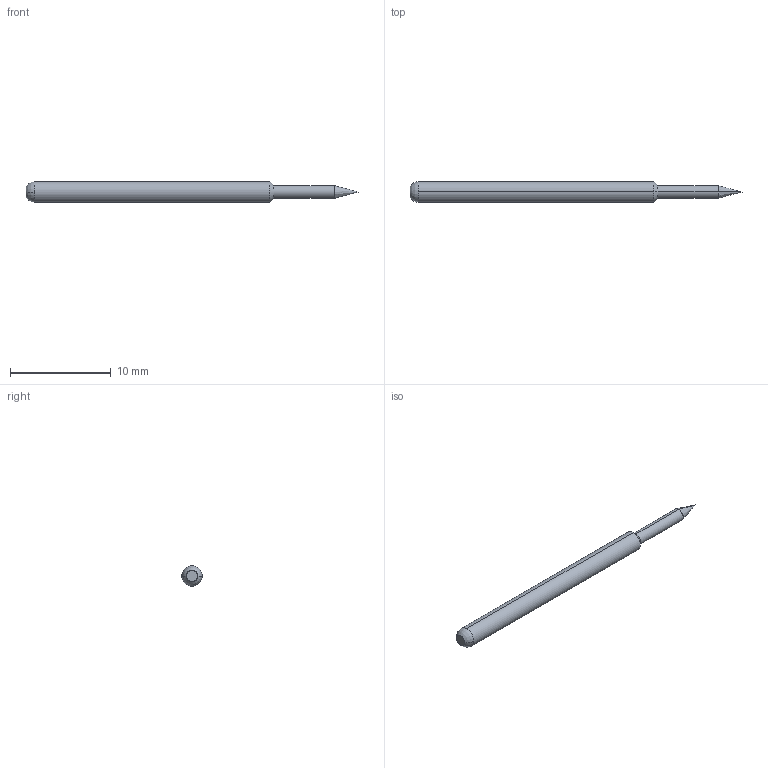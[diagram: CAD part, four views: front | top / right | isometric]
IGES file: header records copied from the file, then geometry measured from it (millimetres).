
Start section: SolidWorks IGES file using analytic representation for surfaces
Global section: file name: C:\Documents and Settings\mrumschlag\Desktop\changes\new\test\EPA-3B.IGS; native system: SolidWorks 2008; preprocessor: SolidWorks 2008; author: mrumschlag; date: 110414.162806; units: inch
Bounding box: 33.02 x 2.03 x 2.03 mm (x, y, z)
Surface area: 187.6 mm2 (no closed solid volume)
Topology: 0 solids, 0 shells, 11 faces, 60 edges, 58 vertices
Faces by surface type: revolution 10, bspline 1
